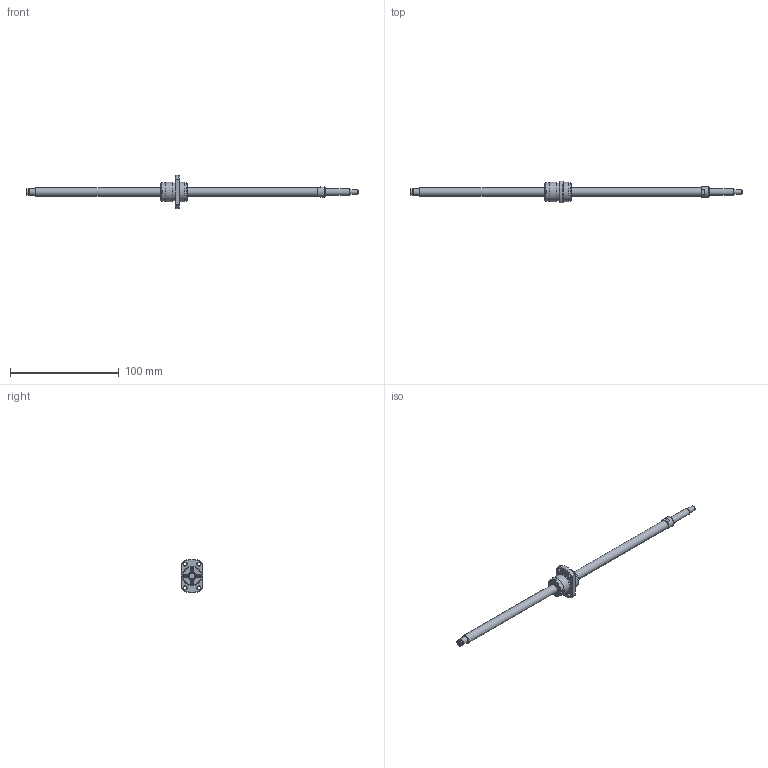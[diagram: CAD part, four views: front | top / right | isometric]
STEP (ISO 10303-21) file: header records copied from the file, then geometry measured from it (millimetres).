
FILE_DESCRIPTION(/* description */ ('STEP AP203'),/* implementation_level */ '2;1');
FILE_NAME(/* name */ 'BNK0810-3GT+305LC5Y(139)',/* time_stamp */ '2024-07-09T08:56:43+02:00',/* author */ ('License CC BY-ND 4.0'),/* organization */ ('CADENAS'),/* preprocessor_version */ 'ST-DEVELOPER v19.3',/* originating_system */ 'PARTsolutions',/* authorisation */ ' ');
FILE_SCHEMA (('CONFIG_CONTROL_DESIGN'));
Length unit declared in the file: millimetre
Products named in the file (3): BNK0810-3GT+305LC5Y(139); BNK 0810-3GT+305LC5Y Shaft; BNK 0810-3GT+305LC5Y Nut
Assembly tree (2 placements, depth 2):
  BNK0810-3GT+305LC5Y(139)
    BNK 0810-3GT+305LC5Y Shaft
    BNK 0810-3GT+305LC5Y Nut
Bounding box: 305 x 20 x 30.91 mm (x, y, z)
Volume: 20217.6 mm3; surface area: 10906.5 mm2
Topology: 2 solids, 2 shells, 112 faces, 256 edges, 166 vertices
Faces by surface type: plane 66, cylinder 27, cone 13, torus 6
Full cylindrical faces by diameter (mm): 3 x4, 3.4 x4, 4.5 x1, 5.7 x1, 6 x3, 8 x2, 9.5 x1, 16.2 x1, 17 x2, 18 x2
Entity records: 3085 total; most frequent: CARTESIAN_POINT 549, DIRECTION 520, ORIENTED_EDGE 444, EDGE_CURVE 222, AXIS2_PLACEMENT_3D 199, EDGE_LOOP 172, FACE_BOUND 172, VERTEX_POINT 164
